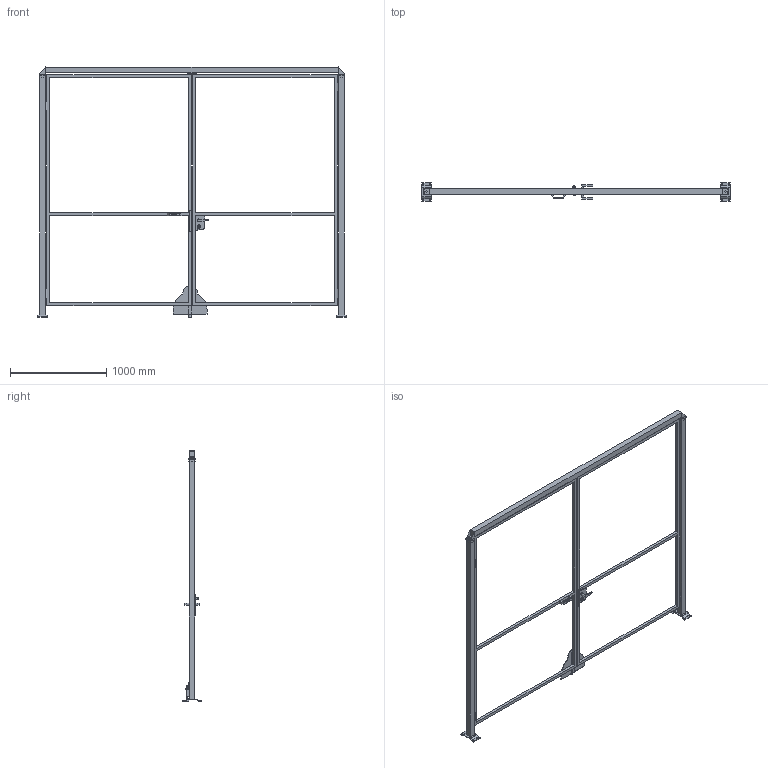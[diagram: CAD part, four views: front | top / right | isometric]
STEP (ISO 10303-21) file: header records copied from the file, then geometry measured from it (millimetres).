
FILE_DESCRIPTION(/* description */ (''),/* implementation_level */ '2;1');
FILE_NAME(/* name */ 'C:\SafeGuarding\ELABORATI\VZOR§GAMMA_2025-02-03-12-13-22.stp',/* time_stamp */ '2025-02-03T12:13:24+01:00',/* author */ ('admin'),/* organization */ (''),/* preprocessor_version */ 'ST-DEVELOPER v18.1',/* originating_system */ 'AutoCAD Mechanical',/* authorisation */ '');
FILE_SCHEMA (('AUTOMOTIVE_DESIGN { 1 0 10303 214 3 1 1 }'));
Length unit declared in the file: millimetre
Products named in the file (5): Product; *U4; DATI_PORTA; P_VFMA.ME60SDU.2520; VFPA.REPE30.15002400
Assembly tree (6 placements, depth 2):
  Product
    VFPA.REPE30.15002400  x2
    P_VFMA.ME60SDU.2520  x2
    *U4
    DATI_PORTA
Bounding box: 3205 x 192 x 2600.5 mm (x, y, z)
Volume: 47188696.5 mm3; surface area: 4776286.9 mm2
Topology: 30 solids, 41 shells, 397 faces, 1353 edges, 1338 vertices
Faces by surface type: plane 321, cylinder 71, bspline 4, cone 1
Full cylindrical faces by diameter (mm): 11 x25, 14 x2, 24 x1, 25 x2, 25.398 x2
Entity records: 13178 total; most frequent: CARTESIAN_POINT 3831, DIRECTION 1830, ORIENTED_EDGE 1640, EDGE_CURVE 869, LINE 768, VECTOR 768, VERTEX_POINT 616, AXIS2_PLACEMENT_3D 531
